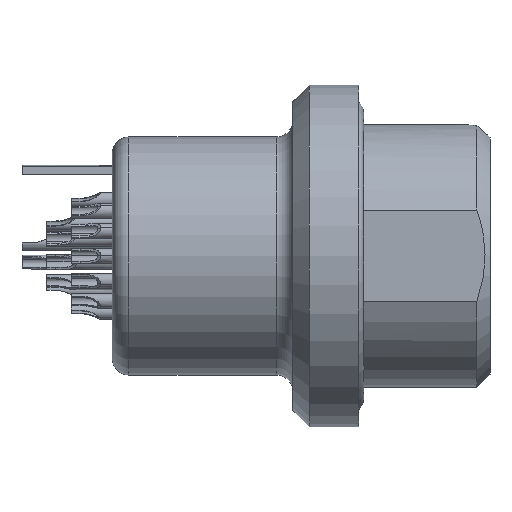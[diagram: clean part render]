
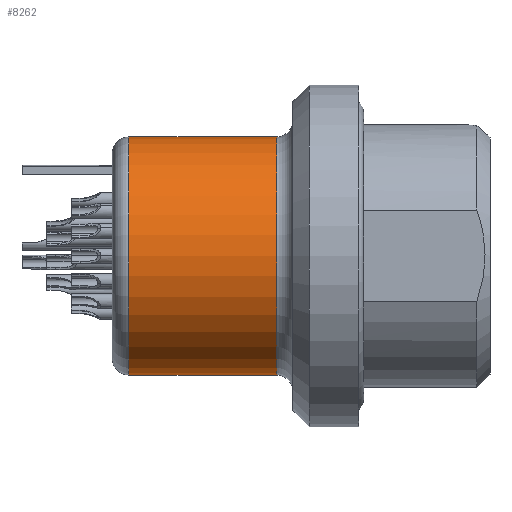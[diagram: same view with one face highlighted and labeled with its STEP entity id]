
A CAD part, top view. The second image highlights one B-rep face of the part: STEP entity #8262.
In plain terms, the highlighted cylindrical face has radius 7.25 mm (diameter 14.5 mm), a partial arc.
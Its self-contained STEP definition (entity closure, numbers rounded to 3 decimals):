
#413=CARTESIAN_POINT('',(-14.,0.,0.));
#414=DIRECTION('',(1.,0.,0.));
#415=DIRECTION('',(0.,1.,0.));
#416=AXIS2_PLACEMENT_3D('',#413,#414,#415);
#433=DIRECTION('',(-1.,0.,0.));
#434=VECTOR('',#433,9.);
#435=CARTESIAN_POINT('',(-5.,7.25,0.));
#436=LINE('',#435,#434);
#437=DIRECTION('',(-1.,0.,0.));
#438=VECTOR('',#437,9.);
#439=CARTESIAN_POINT('',(-5.,-7.25,0.));
#440=LINE('',#439,#438);
#446=CARTESIAN_POINT('',(-5.,0.,0.));
#447=DIRECTION('',(-1.,0.,0.));
#448=DIRECTION('',(0.,-1.,0.));
#449=AXIS2_PLACEMENT_3D('',#446,#447,#448);
#6888=CARTESIAN_POINT('',(-5.,7.25,0.));
#6889=VERTEX_POINT('',#6888);
#6890=CARTESIAN_POINT('',(-5.,-7.25,0.));
#6891=VERTEX_POINT('',#6890);
#6892=CARTESIAN_POINT('',(-14.,7.25,0.));
#6893=VERTEX_POINT('',#6892);
#6894=CARTESIAN_POINT('',(-14.,-7.25,0.));
#6895=VERTEX_POINT('',#6894);
#8250=CARTESIAN_POINT('',(9.15,0.,0.));
#8251=DIRECTION('',(-1.,0.,0.));
#8252=DIRECTION('',(0.,-1.,0.));
#8253=AXIS2_PLACEMENT_3D('',#8250,#8251,#8252);
#8254=CYLINDRICAL_SURFACE('',#8253,7.25);
#8255=ORIENTED_EDGE('',*,*,#8233,.F.);
#8257=ORIENTED_EDGE('',*,*,#8256,.F.);
#8258=ORIENTED_EDGE('',*,*,#8236,.T.);
#8259=ORIENTED_EDGE('',*,*,#8193,.F.);
#8260=EDGE_LOOP('',(#8255,#8257,#8258,#8259));
#8261=FACE_OUTER_BOUND('',#8260,.F.);
#417=CIRCLE('',#416,7.25);
#450=CIRCLE('',#449,7.25);
#8193=EDGE_CURVE('',#6893,#6895,#417,.T.);
#8233=EDGE_CURVE('',#6889,#6893,#436,.T.);
#8236=EDGE_CURVE('',#6891,#6895,#440,.T.);
#8256=EDGE_CURVE('',#6891,#6889,#450,.T.);
#8262=ADVANCED_FACE('',(#8261),#8254,.T.);
